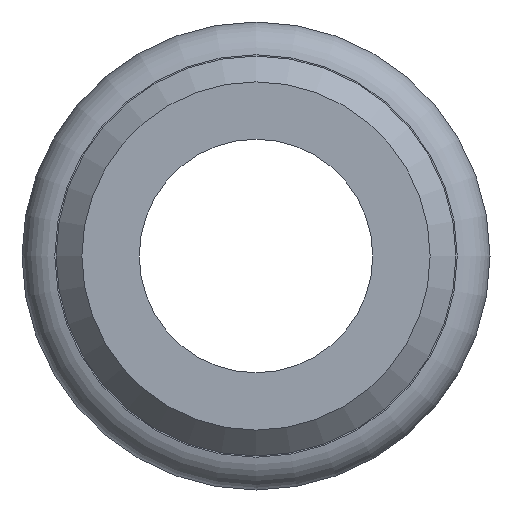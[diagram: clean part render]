
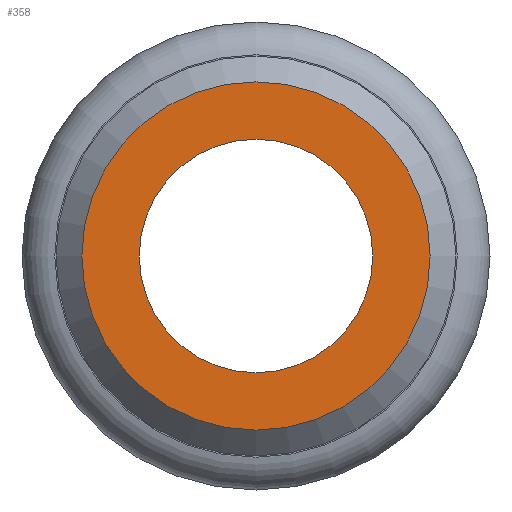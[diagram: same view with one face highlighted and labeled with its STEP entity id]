
A CAD part, front view. The second image highlights one B-rep face of the part: STEP entity #358.
In plain terms, the highlighted planar face has unit normal (0, -1, 0).
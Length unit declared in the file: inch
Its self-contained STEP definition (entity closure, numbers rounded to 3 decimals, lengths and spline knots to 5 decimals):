
#13=FACE_BOUND('',#88,.T.);
#21=PLANE('',#404);
#66=FACE_OUTER_BOUND('',#87,.T.);
#87=EDGE_LOOP('',(#265));
#88=EDGE_LOOP('',(#266,#267));
#116=CIRCLE('',#398,0.135);
#121=CIRCLE('',#405,0.0905);
#122=CIRCLE('',#406,0.0905);
#157=VERTEX_POINT('',#604);
#162=VERTEX_POINT('',#618);
#163=VERTEX_POINT('',#619);
#198=EDGE_CURVE('',#157,#157,#116,.T.);
#205=EDGE_CURVE('',#162,#163,#121,.T.);
#206=EDGE_CURVE('',#163,#162,#122,.T.);
#265=ORIENTED_EDGE('',*,*,#198,.F.);
#266=ORIENTED_EDGE('',*,*,#205,.F.);
#267=ORIENTED_EDGE('',*,*,#206,.F.);
#358=ADVANCED_FACE('',(#66,#13),#21,.T.);
#398=AXIS2_PLACEMENT_3D('',#605,#471,#472);
#404=AXIS2_PLACEMENT_3D('',#617,#485,#486);
#405=AXIS2_PLACEMENT_3D('',#620,#487,#488);
#406=AXIS2_PLACEMENT_3D('',#621,#489,#490);
#471=DIRECTION('center_axis',(0.,1.,0.));
#472=DIRECTION('ref_axis',(0.,0.,1.));
#485=DIRECTION('center_axis',(0.,-1.,0.));
#486=DIRECTION('ref_axis',(0.,0.,-1.));
#487=DIRECTION('center_axis',(0.,-1.,0.));
#488=DIRECTION('ref_axis',(1.,0.,0.));
#489=DIRECTION('center_axis',(0.,-1.,0.));
#490=DIRECTION('ref_axis',(1.,0.,0.));
#604=CARTESIAN_POINT('',(0.,0.,-0.135));
#605=CARTESIAN_POINT('Origin',(0.,0.,0.));
#617=CARTESIAN_POINT('Origin',(0.,0.,-0.0905));
#618=CARTESIAN_POINT('',(0.,0.,-0.0905));
#619=CARTESIAN_POINT('',(0.,0.,0.0905));
#620=CARTESIAN_POINT('Origin',(0.,0.,0.));
#621=CARTESIAN_POINT('Origin',(0.,0.,0.));
